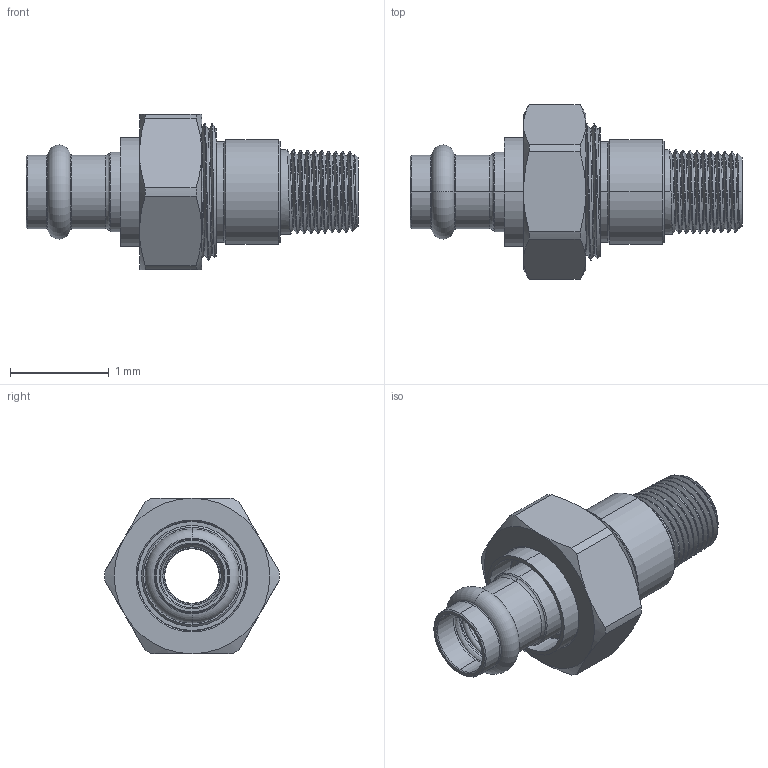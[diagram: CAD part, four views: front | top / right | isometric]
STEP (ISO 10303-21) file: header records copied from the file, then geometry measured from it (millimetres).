
FILE_DESCRIPTION(('Open CASCADE Model'),'2;1');
FILE_NAME('Open CASCADE Shape Model','2022-06-28T09:23:04',('Author'),( 'Open CASCADE'),'Open CASCADE STEP processor 7.3','Open CASCADE 7.3' ,'Unknown');
FILE_SCHEMA(('AUTOMOTIVE_DESIGN { 1 0 10303 214 1 1 1 1 }'));
Length unit declared in the file: millimetre
Products named in the file (7): Open CASCADE STEP translator 7.3 1; Open CASCADE STEP translator 7.3 1.1; Open CASCADE STEP translator 7.3 1.2; Open CASCADE STEP translator 7.3 1.3; Open CASCADE STEP translator 7.3 1.4; Open CASCADE STEP translator 7.3 1.5; Open CASCADE STEP translator 7.3 1.6
Assembly tree (6 placements, depth 2):
  Open CASCADE STEP translator 7.3 1
    Open CASCADE STEP translator 7.3 1.1
    Open CASCADE STEP translator 7.3 1.2
    Open CASCADE STEP translator 7.3 1.3
    Open CASCADE STEP translator 7.3 1.4
    Open CASCADE STEP translator 7.3 1.5
    Open CASCADE STEP translator 7.3 1.6
Bounding box: 3.36 x 1.77 x 1.58 mm (x, y, z)
Volume: 2.1 mm3; surface area: 38.8 mm2
Topology: 6 solids, 6 shells, 202 faces, 470 edges, 288 vertices
Faces by surface type: cone 76, cylinder 69, plane 28, torus 16, bspline 13
Entity records: 35400 total; most frequent: CARTESIAN_POINT 26408, DIRECTION 1526, ORIENTED_EDGE 940, PCURVE 940, DEFINITIONAL_REPRESENTATION 940, LINE 695, VECTOR 695, EDGE_CURVE 470
